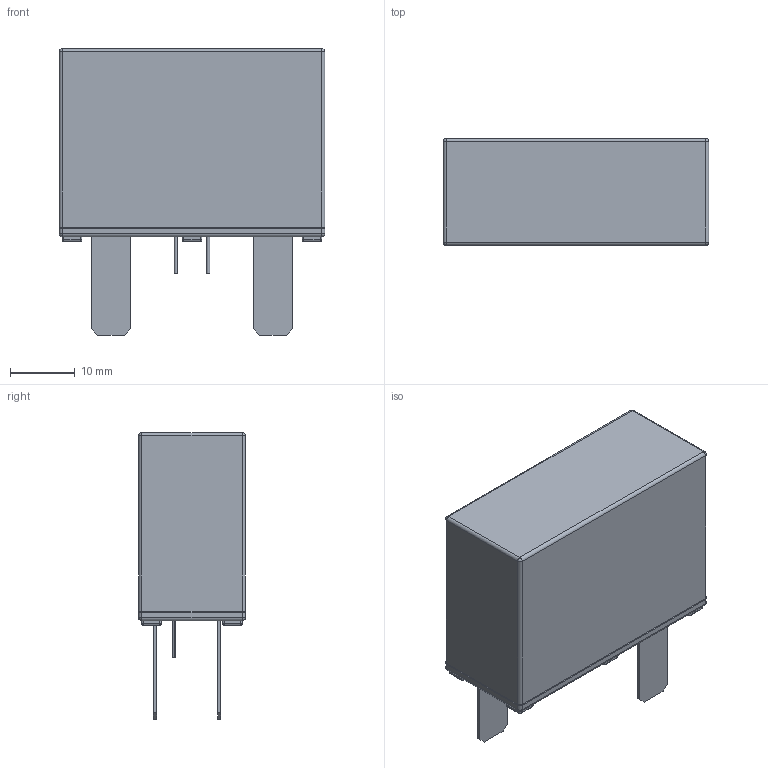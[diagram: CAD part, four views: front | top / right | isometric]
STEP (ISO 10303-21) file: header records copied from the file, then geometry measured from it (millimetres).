
FILE_DESCRIPTION((''),'2;1');
FILE_NAME('TFMOV20K-16-20200619','2020-06-24T',('set'),(''),'PRO/ENGINEER BY PARAMETRIC TECHNOLOGY CORPORATION, 2012310','PRO/ENGINEER BY PARAMETRIC TECHNOLOGY CORPORATION, 2012310','');
FILE_SCHEMA(('CONFIG_CONTROL_DESIGN','SHAPE_APPEARANCE_LAYERS_GROUPS'));
Length unit declared in the file: millimetre
Products named in the file (1): TFMOV20K-16-20200619
Bounding box: 41 x 16.5 x 44.2 mm (x, y, z)
Volume: 19602.7 mm3; surface area: 6084 mm2
Topology: 1 solids, 6 shells, 296 faces, 688 edges, 406 vertices
Faces by surface type: plane 140, cylinder 100, sphere 44, torus 8, cone 4
Entity records: 10294 total; most frequent: DIRECTION 1476, CARTESIAN_POINT 1422, ORIENTED_EDGE 1352, PRESENTATION_STYLE_ASSIGNMENT 677, STYLED_ITEM 677, CURVE_STYLE 676, EDGE_CURVE 676, AXIS2_PLACEMENT_3D 516
